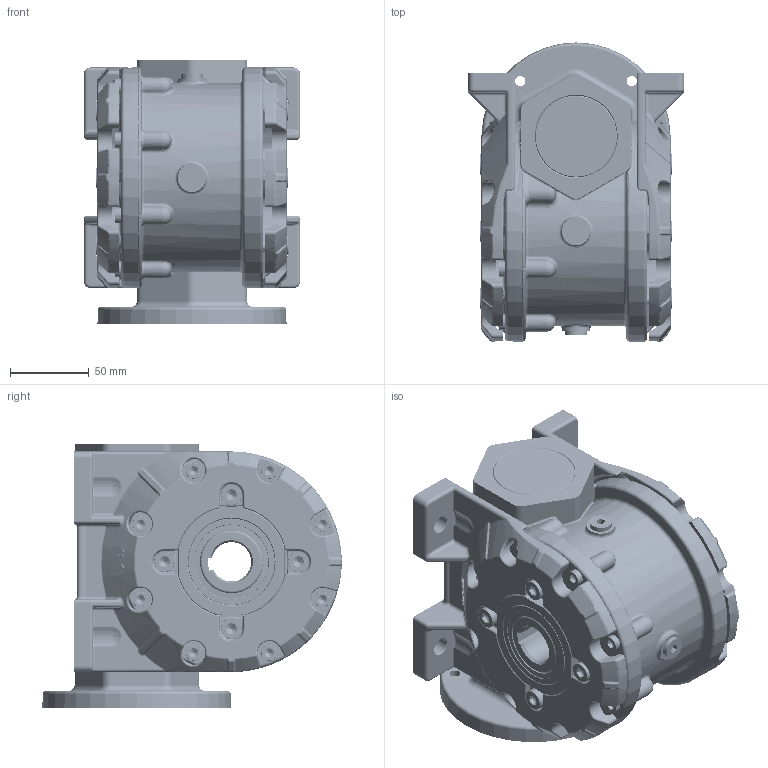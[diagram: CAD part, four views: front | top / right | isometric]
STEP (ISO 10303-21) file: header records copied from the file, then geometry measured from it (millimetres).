
FILE_DESCRIPTION (( 'STEP AP214' ), '1' );
FILE_NAME ('Sestava MRT60A-B.STEP', '2007-03-28T11:28:03', ( '' ), ( '' ), 'SwSTEP 2.0', 'SolidWorks 2004146', '' );
FILE_SCHEMA (( 'AUTOMOTIVE_DESIGN' ));
Products named in the file (18): skøíò 60_Výchozí; Sestava MRT60A-B; Circlip for Bores normal_din_Circlip DIN 472 - 52 x 2; Pøíruba FT60_Výchozí; NBRvíèko_52x7; N024720_Ložisko SKF 30205 ÈSN 024720; Šnekové kolo MRT60_Výchozí; N024720_Ložisko SKF 32006 X ÈSN 024720; Snek_60_Výchozí; n029401b_Tìsnìní AS 40x55x7 DIN 3760-NB; N024630_Ložisko SKF 6008 ÈSN 024630; n029401b_Tìsnìní AS 30x47x7 DIN 3760-NB; ZatkaM10x1DIN908_M10x1; pøíruba 100-60_Výchozí; D6912_Šroub DIN 6912 - M8x16; Adaptér patky 60_Výchozí; D6912_Šroub DIN 6912 - M6x16; D6912_Šroub DIN 6912 - M6x12
Assembly tree (40 placements, depth 2):
  Sestava MRT60A-B
    D6912_Šroub DIN 6912 - M8x16  x8
    N024720_Ložisko SKF 30205 ÈSN 024720
    n029401b_Tìsnìní AS 40x55x7 DIN 3760-NB  x2
    Snek_60_Výchozí
    skøíò 60_Výchozí
    ZatkaM10x1DIN908_M10x1  x2
    D6912_Šroub DIN 6912 - M6x12  x8
    D6912_Šroub DIN 6912 - M6x16  x6
    Adaptér patky 60_Výchozí  x2
    N024630_Ložisko SKF 6008 ÈSN 024630  x2
    Pøíruba FT60_Výchozí
    pøíruba 100-60_Výchozí
    Circlip for Bores normal_din_Circlip DIN 472 - 52 x 2
    n029401b_Tìsnìní AS 30x47x7 DIN 3760-NB
    N024720_Ložisko SKF 32006 X ÈSN 024720
    NBRvíèko_52x7
    Šnekové kolo MRT60_Výchozí
Bounding box: 137 x 190 x 168 mm (x, y, z)
Volume: 1433162.9 mm3; surface area: 491463.6 mm2
Topology: 40 solids, 42 shells, 4932 faces, 12009 edges, 6783 vertices
Faces by surface type: cylinder 1187, torus 1060, bspline 957, plane 872, cone 668, sphere 188
Entity records: 379127 total; most frequent: CARTESIAN_POINT 303093, ORIENTED_EDGE 16154, DIRECTION 15643, EDGE_CURVE 8077, AXIS2_PLACEMENT_3D 6950, VERTEX_POINT 4770, CIRCLE 4244, EDGE_LOOP 3527
